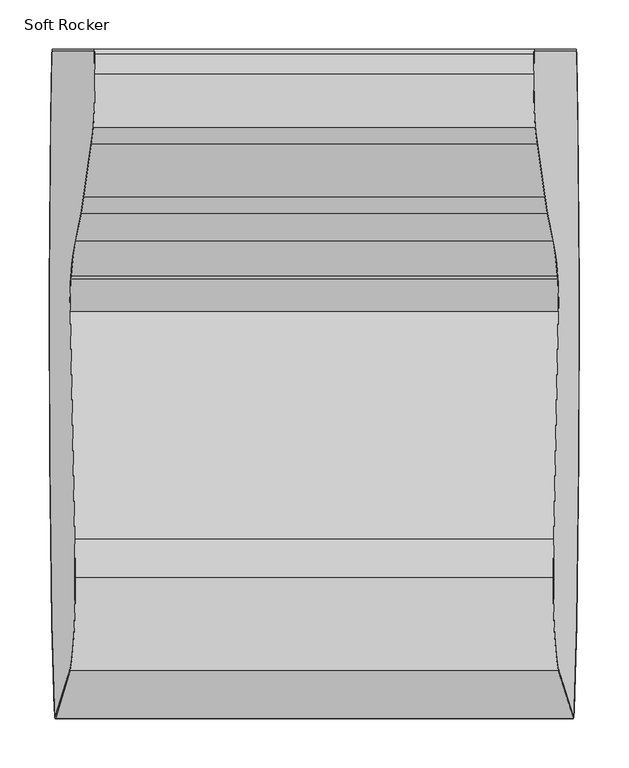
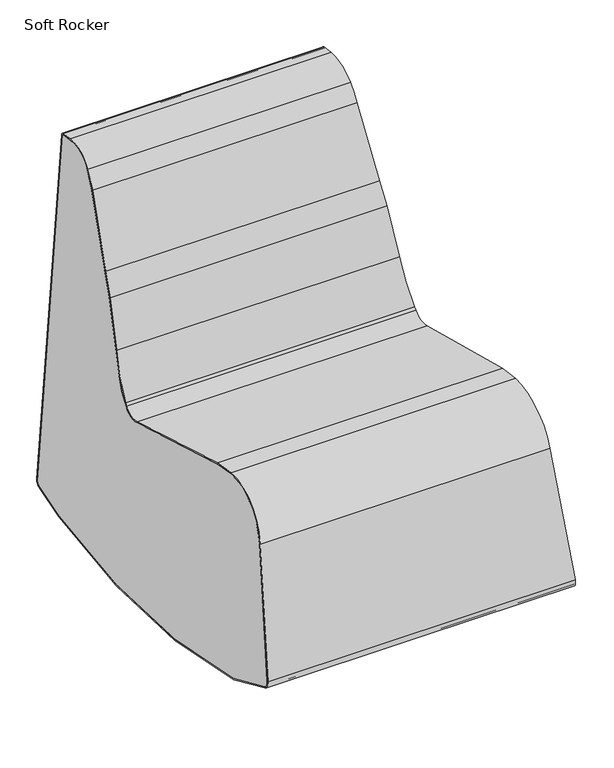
"""IFC4 building model written with IfcOpenShell, lengths in millimetres: furniture geometry, SmithSystem_AM_Seating_Education_Flowform_SoftRocker : Soft Rocker."""

from ifc_helpers import new_model, si_unit, frame, origin, place, context, project, spatial, polyline, ellipse_curve, source, transform, mapped, element, save
from ifc_brep_helpers import plane_surface, cylinder_surface, revolved_surface, advanced_brep


def soft_rocker_5f7cf07a(model_context):
    return source(origin(), model_context, "Body", "AdvancedBrep", [
        advanced_brep(
        [(-222.6757263, 653.9841106, 660.4501163), (-222.8599971, 673.8882212, 657.8149204), (-223.2436264, 678.6959108, 652.3287665), (-265.5690081, 678.6959108, 47.0476077), (-266.3341853, 670.2994023, 36.1050648), (-267.4525125, 610.6133717, 20.1122411), (-266.1935409, 95.5831676, 38.1163728), (-263.6021214, 8.3041513, 75.175399), (-262.4925661, 0.0499612, 91.0427791), (-247.5782078, 48.8208887, 304.3280392), (-242.6495993, 143.1805098, 374.810424), (-243.0614719, 182.2727038, 368.9203721), (-247.5534039, 413.130096, 304.6827508), (-246.9645762, 445.3268147, 313.1033805), (-246.6901672, 448.8482222, 317.0276111), (-241.71517, 484.2856691, 388.1733858), (-236.378299, 512.4727682, 464.4941967), (-233.8444197, 529.0775484, 500.7303599), (-226.0522483, 582.3835004, 612.1636014), (-224.1931263, 599.4360546, 638.7502849), (-223.0008592, 673.6215227, 655.8004984), (-222.8281803, 654.9695228, 658.2699217), (-223.6756202, 608.6799651, 646.1509677), (-226.1151604, 584.2054748, 611.2639163), (-236.4313746, 514.3597351, 463.7351806), (-244.3247028, 471.7620654, 350.8553284), (-247.0617004, 446.8100086, 311.7144385), (-247.6888693, 412.5168228, 302.7455054), (-243.1996181, 181.7972063, 366.9447896), (-242.7914096, 143.052787, 372.782442), (-247.6098816, 50.8017608, 303.8750826), (-262.5242399, 2.0308333, 90.5898225), (-263.4705193, 9.0703837, 77.0573958), (-266.0589368, 96.2545489, 40.0413021), (-267.3138486, 610.1629272, 22.0952261), (-266.1969357, 669.773482, 38.0678261), (-265.5690081, 676.6639108, 47.0476077), (-223.2436264, 676.6639108, 652.3287665), (222.8599971, 673.8882212, 657.8149204), (222.6757263, 653.9841106, 660.4501163), (224.1931263, 599.4360546, 638.7502849), (226.0522483, 582.3835004, 612.1636014), (233.8444197, 529.0775484, 500.7303599), (236.378299, 512.4727682, 464.4941967), (241.71517, 484.2856691, 388.1733858), (246.6901672, 448.8482222, 317.0276111), (246.9645762, 445.3268147, 313.1033805), (247.5534039, 413.130096, 304.6827508), (243.0614719, 182.2727038, 368.9203721), (242.6495993, 143.1805098, 374.810424), (247.5782078, 48.8208887, 304.3280392), (262.4925661, 0.0499612, 91.0427791), (263.6021214, 8.3041513, 75.175399), (266.1935409, 95.5831676, 38.1163728), (267.4525125, 610.6133717, 20.1122411), (266.3341853, 670.2994023, 36.1050648), (265.5690081, 678.6959108, 47.0476077), (223.2436264, 678.6959108, 652.3287665), (222.8281803, 654.9695228, 658.2699217), (223.0008592, 673.6215227, 655.8004984), (223.2436264, 676.6639108, 652.3287665), (265.5690081, 676.6639108, 47.0476077), (266.1969357, 669.773482, 38.0678261), (267.3138486, 610.1629272, 22.0952261), (266.0589368, 96.2545489, 40.0413021), (263.4705193, 9.0703837, 77.0573958), (262.5242399, 2.0308333, 90.5898225), (247.6098816, 50.8017608, 303.8750826), (242.7914096, 143.052787, 372.782442), (243.1996181, 181.7972063, 366.9447896), (247.6888693, 412.5168228, 302.7455054), (247.0617004, 446.8100086, 311.7144385), (244.3247028, 471.7620654, 350.8553284), (236.4313746, 514.3597351, 463.7351806), (226.1151604, 584.2054748, 611.2639163), (223.6756202, 608.6799651, 646.1509677)],
        [
            (0, 1),
            (1, 2, ellipse_curve(frame((-223.2436264, 673.1618843, 652.3287665), z_axis=(-0.9975640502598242, 0.0, 0.0697564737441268), x_axis=(0.06975647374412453, 0.0, 0.9975640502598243)), 5.54754, 5.5340265)),
            (2, 3),
            (3, 4, ellipse_curve(frame((-265.5690081, 667.3673568, 47.0476077), z_axis=(-0.9975640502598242, 0.0, 0.0697564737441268), x_axis=(0.06975647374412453, 0.0, 0.9975640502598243)), 11.3562172, 11.328554)),
            (4, 5),
            (5, 6, ellipse_curve(frame((-186.2612277, 393.3722829, 1181.2017068), z_axis=(-0.9975640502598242, 0.0, 0.0697564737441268), x_axis=(0.06975647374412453, 0.0, 0.9975640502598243)), 1184.1221342, 1181.2376722)),
            (6, 7, ellipse_curve(frame((-469.8156904, -1192.3424193, -2873.8160296), z_axis=(0.9975640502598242, 0.0, -0.0697564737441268), x_axis=(-0.06975647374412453, 0.0, -0.9975640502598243)), 3191.813828, 3184.0387299)),
            (7, 8, ellipse_curve(frame((-262.7078082, 13.511151, 87.9646728), z_axis=(-0.9975640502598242, 0.0, 0.0697564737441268), x_axis=(0.06975647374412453, 0.0, 0.9975640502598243)), 13.8423532, 13.8086339)),
            (8, 9),
            (9, 10, ellipse_curve(frame((-248.9956109, 137.4649155, 284.0582306), z_axis=(-0.9975640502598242, 0.0, 0.0697564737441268), x_axis=(0.06975647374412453, 0.0, 0.9975640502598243)), 91.1540467, 90.932)),
            (10, 11, ellipse_curve(frame((-258.5900245, 128.8236176, 146.8517233), z_axis=(-0.9975640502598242, 0.0, 0.0697564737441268), x_axis=(0.06975647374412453, 0.0, 0.9975640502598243)), 228.9681083, 228.4103535)),
            (11, 12, ellipse_curve(frame((-474.5395547, -614.471995, -2941.3704362), z_axis=(-0.9975640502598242, 0.0, 0.0697564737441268), x_axis=(0.06975647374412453, 0.0, 0.9975640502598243)), 3413.1383626, 3404.8241291)),
            (12, 13, ellipse_curve(frame((-245.4729796, 422.5485051, 334.4342054), z_axis=(0.9975640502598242, 0.0, -0.0697564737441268), x_axis=(-0.06975647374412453, 0.0, -0.9975640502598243)), 31.2828611, 31.2066576)),
            (13, 14, ellipse_curve(frame((-245.4479022, 425.1035248, 334.7928281), z_axis=(0.9975640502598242, 0.0, -0.0697564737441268), x_axis=(-0.06975647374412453, 0.0, -0.9975640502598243)), 29.7273227, 29.6549084)),
            (14, 15, ellipse_curve(frame((-237.401844, 271.3108796, 449.8568218), z_axis=(0.9975640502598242, 0.0, -0.0697564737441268), x_axis=(-0.06975647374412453, 0.0, -0.9975640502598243)), 222.268988, 221.7275519)),
            (15, 16, ellipse_curve(frame((-252.7354271, 1028.4218891, 230.5763679), z_axis=(-0.9975640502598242, 0.0, 0.0697564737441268), x_axis=(0.06975647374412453, 0.0, 0.9975640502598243)), 567.8822699, 566.4989373)),
            (16, 17, ellipse_curve(frame((-379.2674478, 5019.5922672, -1578.9158311), z_axis=(-0.9975640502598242, 0.0, 0.0697564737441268), x_axis=(0.06975647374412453, 0.0, 0.9975640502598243)), 4960.7861484, 4948.7019227)),
            (17, 18, ellipse_curve(frame((-379.2674477, 5019.5922667, -1578.9158309), z_axis=(-0.9975640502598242, 0.0, 0.0697564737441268), x_axis=(0.06975647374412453, 0.0, 0.9975640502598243)), 4960.7861478, 4948.7019221)),
            (18, 19, ellipse_curve(frame((-230.4415201, 709.4995769, 549.3940912), z_axis=(-0.9975640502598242, 0.0, 0.0697564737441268), x_axis=(0.06975647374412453, 0.0, 0.9975640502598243)), 142.1153939, 141.7692079)),
            (19, 0, ellipse_curve(frame((-226.8420427, 646.0958971, 600.8690157), z_axis=(-0.9975640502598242, 0.0, 0.0697564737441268), x_axis=(0.06975647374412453, 0.0, 0.9975640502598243)), 60.2477711, 60.1010105)),
            (20, 21),
            (21, 22, ellipse_curve(frame((-227.2152036, 646.6634384, 595.5325662), z_axis=(0.9975640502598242, 0.0, -0.0697564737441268), x_axis=(-0.06975647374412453, 0.0, -0.9975640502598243)), 63.4393422, 63.2848072)),
            (22, 23, ellipse_curve(frame((-230.4415201, 709.4995769, 549.3940912), z_axis=(0.9975640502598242, 0.0, -0.0697564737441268), x_axis=(-0.06975647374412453, 0.0, -0.9975640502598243)), 140.0784319, 139.7372079)),
            (23, 24, ellipse_curve(frame((-379.2674478, 5019.5922668, -1578.915831), z_axis=(0.9975640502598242, 0.0, -0.0697564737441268), x_axis=(-0.06975647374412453, 0.0, -0.9975640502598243)), 4958.7491861, 4946.6699223)),
            (24, 25, ellipse_curve(frame((-171.5116382, -2116.6610939, 1392.1306642), z_axis=(-0.9975640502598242, 0.0, 0.0697564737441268), x_axis=(0.06975647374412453, 0.0, 0.9975640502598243)), 2796.8288442, 2790.0159097)),
            (25, 26, ellipse_curve(frame((-241.0329734, 354.7447594, 397.9292522), z_axis=(-0.9975640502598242, 0.0, 0.0697564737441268), x_axis=(0.06975647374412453, 0.0, 0.9975640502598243)), 126.4388999, 126.1309011)),
            (26, 27, ellipse_curve(frame((-245.4729796, 422.5485051, 334.4342054), z_axis=(-0.9975640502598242, 0.0, 0.0697564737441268), x_axis=(0.06975647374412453, 0.0, 0.9975640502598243)), 33.319823, 33.2386576)),
            (27, 28, ellipse_curve(frame((-474.5395547, -614.471995, -2941.3704362), z_axis=(0.9975640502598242, 0.0, -0.0697564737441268), x_axis=(-0.06975647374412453, 0.0, -0.9975640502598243)), 3411.1014007, 3402.7921291)),
            (28, 29),
            (29, 30, ellipse_curve(frame((-248.9956109, 137.4649155, 284.0582306), z_axis=(0.9975640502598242, 0.0, -0.0697564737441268), x_axis=(-0.06975647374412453, 0.0, -0.9975640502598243)), 89.1170847, 88.9)),
            (30, 31),
            (31, 32, ellipse_curve(frame((-262.7078082, 13.511151, 87.9646728), z_axis=(0.9975640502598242, 0.0, -0.0697564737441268), x_axis=(-0.06975647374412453, 0.0, -0.9975640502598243)), 11.8053912, 11.7766339)),
            (32, 33, ellipse_curve(frame((-469.8156904, -1192.3424193, -2873.8160296), z_axis=(-0.9975640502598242, 0.0, 0.0697564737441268), x_axis=(0.06975647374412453, 0.0, 0.9975640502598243)), 3193.8507899, 3186.0707299)),
            (33, 34, ellipse_curve(frame((-186.2612277, 393.3722829, 1181.2017068), z_axis=(0.9975640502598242, 0.0, -0.0697564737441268), x_axis=(-0.06975647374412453, 0.0, -0.9975640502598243)), 1182.0851722, 1179.2056722)),
            (34, 35),
            (35, 36, ellipse_curve(frame((-265.5690081, 667.3673568, 47.0476077), z_axis=(0.9975640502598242, 0.0, -0.0697564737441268), x_axis=(-0.06975647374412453, 0.0, -0.9975640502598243)), 9.3192553, 9.296554)),
            (36, 37),
            (37, 20, ellipse_curve(frame((-223.2436264, 673.1618843, 652.3287665), z_axis=(0.9975640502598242, 0.0, -0.0697564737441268), x_axis=(-0.06975647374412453, 0.0, -0.9975640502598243)), 3.5105781, 3.5020265)),
            (38, 39),
            (39, 40, ellipse_curve(frame((226.8420427, 646.0958971, 600.8690157), z_axis=(0.9975640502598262, 0.0, 0.0697564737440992), x_axis=(0.06975647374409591, 0.0, -0.9975640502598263)), 60.2477711, 60.1010105)),
            (40, 41, ellipse_curve(frame((230.4415201, 709.4995769, 549.3940912), z_axis=(0.9975640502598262, 0.0, 0.0697564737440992), x_axis=(0.06975647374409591, 0.0, -0.9975640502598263)), 142.1153939, 141.7692079)),
            (41, 42, ellipse_curve(frame((379.2674477, 5019.5922667, -1578.9158309), z_axis=(0.9975640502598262, 0.0, 0.0697564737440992), x_axis=(0.06975647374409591, 0.0, -0.9975640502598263)), 4960.7861478, 4948.7019221)),
            (42, 43, ellipse_curve(frame((379.2674478, 5019.5922672, -1578.9158311), z_axis=(0.9975640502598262, 0.0, 0.0697564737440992), x_axis=(0.06975647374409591, 0.0, -0.9975640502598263)), 4960.7861484, 4948.7019227)),
            (43, 44, ellipse_curve(frame((252.7354271, 1028.4218891, 230.5763679), z_axis=(0.9975640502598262, 0.0, 0.0697564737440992), x_axis=(0.06975647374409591, 0.0, -0.9975640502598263)), 567.8822699, 566.4989373)),
            (44, 45, ellipse_curve(frame((237.401844, 271.3108796, 449.8568218), z_axis=(-0.9975640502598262, 0.0, -0.0697564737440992), x_axis=(-0.06975647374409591, 0.0, 0.9975640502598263)), 222.268988, 221.7275519)),
            (45, 46, ellipse_curve(frame((245.4479022, 425.1035248, 334.7928281), z_axis=(-0.9975640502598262, 0.0, -0.0697564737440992), x_axis=(-0.06975647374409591, 0.0, 0.9975640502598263)), 29.7273227, 29.6549084)),
            (46, 47, ellipse_curve(frame((245.4729796, 422.5485051, 334.4342054), z_axis=(-0.9975640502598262, 0.0, -0.0697564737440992), x_axis=(-0.06975647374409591, 0.0, 0.9975640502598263)), 31.2828611, 31.2066576)),
            (47, 48, ellipse_curve(frame((474.5395547, -614.471995, -2941.3704362), z_axis=(0.9975640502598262, 0.0, 0.0697564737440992), x_axis=(0.06975647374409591, 0.0, -0.9975640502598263)), 3413.1383626, 3404.8241291)),
            (48, 49, ellipse_curve(frame((258.5900245, 128.8236176, 146.8517233), z_axis=(0.9975640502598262, 0.0, 0.0697564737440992), x_axis=(0.06975647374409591, 0.0, -0.9975640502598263)), 228.9681083, 228.4103535)),
            (49, 50, ellipse_curve(frame((248.9956109, 137.4649155, 284.0582306), z_axis=(0.9975640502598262, 0.0, 0.0697564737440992), x_axis=(0.06975647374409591, 0.0, -0.9975640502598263)), 91.1540467, 90.932)),
            (50, 51),
            (51, 52, ellipse_curve(frame((262.7078082, 13.511151, 87.9646728), z_axis=(0.9975640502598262, 0.0, 0.0697564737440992), x_axis=(0.06975647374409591, 0.0, -0.9975640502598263)), 13.8423532, 13.8086339)),
            (52, 53, ellipse_curve(frame((469.8156904, -1192.3424193, -2873.8160296), z_axis=(-0.9975640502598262, 0.0, -0.0697564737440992), x_axis=(-0.06975647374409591, 0.0, 0.9975640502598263)), 3191.813828, 3184.0387299)),
            (53, 54, ellipse_curve(frame((186.2612277, 393.3722829, 1181.2017068), z_axis=(0.9975640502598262, 0.0, 0.0697564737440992), x_axis=(0.06975647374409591, 0.0, -0.9975640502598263)), 1184.1221342, 1181.2376722)),
            (54, 55),
            (55, 56, ellipse_curve(frame((265.5690081, 667.3673568, 47.0476077), z_axis=(0.9975640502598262, 0.0, 0.0697564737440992), x_axis=(0.06975647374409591, 0.0, -0.9975640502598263)), 11.3562172, 11.328554)),
            (56, 57),
            (57, 38, ellipse_curve(frame((223.2436264, 673.1618843, 652.3287665), z_axis=(0.9975640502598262, 0.0, 0.0697564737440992), x_axis=(0.06975647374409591, 0.0, -0.9975640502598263)), 5.54754, 5.5340265)),
            (58, 59),
            (59, 60, ellipse_curve(frame((223.2436264, 673.1618843, 652.3287665), z_axis=(-0.9975640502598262, 0.0, -0.0697564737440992), x_axis=(-0.06975647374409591, 0.0, 0.9975640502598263)), 3.5105781, 3.5020265)),
            (60, 61),
            (61, 62, ellipse_curve(frame((265.5690081, 667.3673568, 47.0476077), z_axis=(-0.9975640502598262, 0.0, -0.0697564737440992), x_axis=(-0.06975647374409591, 0.0, 0.9975640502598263)), 9.3192553, 9.296554)),
            (62, 63),
            (63, 64, ellipse_curve(frame((186.2612277, 393.3722829, 1181.2017068), z_axis=(-0.9975640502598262, 0.0, -0.0697564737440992), x_axis=(-0.06975647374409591, 0.0, 0.9975640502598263)), 1182.0851722, 1179.2056722)),
            (64, 65, ellipse_curve(frame((469.8156904, -1192.3424193, -2873.8160296), z_axis=(0.9975640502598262, 0.0, 0.0697564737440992), x_axis=(0.06975647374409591, 0.0, -0.9975640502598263)), 3193.8507899, 3186.0707299)),
            (65, 66, ellipse_curve(frame((262.7078082, 13.511151, 87.9646728), z_axis=(-0.9975640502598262, 0.0, -0.0697564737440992), x_axis=(-0.06975647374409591, 0.0, 0.9975640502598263)), 11.8053912, 11.7766339)),
            (66, 67),
            (67, 68, ellipse_curve(frame((248.9956109, 137.4649155, 284.0582306), z_axis=(-0.9975640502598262, 0.0, -0.0697564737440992), x_axis=(-0.06975647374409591, 0.0, 0.9975640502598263)), 89.1170847, 88.9)),
            (68, 69),
            (69, 70, ellipse_curve(frame((474.5395547, -614.471995, -2941.3704362), z_axis=(-0.9975640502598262, 0.0, -0.0697564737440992), x_axis=(-0.06975647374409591, 0.0, 0.9975640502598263)), 3411.1014007, 3402.7921291)),
            (70, 71, ellipse_curve(frame((245.4729796, 422.5485051, 334.4342054), z_axis=(0.9975640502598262, 0.0, 0.0697564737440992), x_axis=(0.06975647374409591, 0.0, -0.9975640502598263)), 33.319823, 33.2386576)),
            (71, 72, ellipse_curve(frame((241.0329734, 354.7447594, 397.9292522), z_axis=(0.9975640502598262, 0.0, 0.0697564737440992), x_axis=(0.06975647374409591, 0.0, -0.9975640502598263)), 126.4388999, 126.1309011)),
            (72, 73, ellipse_curve(frame((171.5116382, -2116.6610939, 1392.1306642), z_axis=(0.9975640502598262, 0.0, 0.0697564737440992), x_axis=(0.06975647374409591, 0.0, -0.9975640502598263)), 2796.8288442, 2790.0159097)),
            (73, 74, ellipse_curve(frame((379.2674478, 5019.5922668, -1578.915831), z_axis=(-0.9975640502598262, 0.0, -0.0697564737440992), x_axis=(-0.06975647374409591, 0.0, 0.9975640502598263)), 4958.7491861, 4946.6699223)),
            (74, 75, ellipse_curve(frame((230.4415201, 709.4995769, 549.3940912), z_axis=(-0.9975640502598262, 0.0, -0.0697564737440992), x_axis=(-0.06975647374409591, 0.0, 0.9975640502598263)), 140.0784319, 139.7372079)),
            (75, 58, ellipse_curve(frame((227.2152036, 646.6634384, 595.5325662), z_axis=(-0.9975640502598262, 0.0, -0.0697564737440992), x_axis=(-0.06975647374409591, 0.0, 0.9975640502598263)), 63.4393422, 63.2848072)),
            (38, 1),
            (0, 39),
            (46, 13),
            (12, 47),
            (11, 48),
            (10, 49),
            (9, 50),
            (8, 51),
            (7, 52),
            (6, 53),
            (5, 54),
            (4, 55),
            (3, 56),
            (2, 57),
            (58, 21),
            (20, 59),
            (37, 60),
            (36, 61),
            (35, 62),
            (34, 63),
            (33, 64),
            (32, 65),
            (31, 66),
            (30, 67),
            (29, 68),
            (28, 69),
            (27, 70),
            (26, 71),
            (25, 72),
            (24, 73),
            (23, 74),
            (22, 75),
            (41, 18),
            (17, 42),
            (16, 43),
            (15, 44),
            (14, 45),
            (19, 40),
        ],
        [
            plane_surface(frame((-275.6879581, -495.3, -97.6601187), z_axis=(-0.9975640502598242, 0.0, 0.0697564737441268), x_axis=(0.0, 1.0, 0.0))),
            plane_surface(frame((221.9422731, -495.3, 670.9389851), z_axis=(0.9975640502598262, 0.0, 0.0697564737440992), x_axis=(0.0, 1.0, 0.0))),
            plane_surface(frame((293.3589418, 673.8882212, 657.8149204), z_axis=(0.0, 0.13124926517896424, 0.9913493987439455), x_axis=(-1.0, 0.0, 0.0))),
            revolved_surface(polyline([(-247.65516167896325, 453.7551627, 334.4342054), (247.65516167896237, 453.7551627, 334.4342054)]), (-303.6082854, 422.5485051, 334.4342054), (-1.0, 0.0, 0.0)),
            cylinder_surface(frame((-303.6082854, -614.471995, -2941.3704362), z_axis=(1.0, 0.0, 0.0), x_axis=(0.0, 1.0, 0.0)), 3404.8241291),
            cylinder_surface(frame((-303.6082854, 128.8236176, 146.8517233), z_axis=(1.0, 0.0, 0.0), x_axis=(0.0, 1.0, 0.0)), 228.4103535),
            cylinder_surface(frame((-303.6082854, 137.4649155, 284.0582306), z_axis=(1.0, 0.0, 0.0), x_axis=(0.0, 1.0, 0.0)), 90.932),
            plane_surface(frame((293.3589418, 48.8208887, 304.3280392), z_axis=(0.0, -0.9748386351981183, 0.22291172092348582), x_axis=(-1.0, 0.0, 0.0))),
            cylinder_surface(frame((-303.6082854, 13.511151, 87.9646728), z_axis=(1.0, 0.0, 0.0), x_axis=(0.0, 1.0, 0.0)), 13.8086339),
            revolved_surface(polyline([(-692.4653678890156, 1991.6963105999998, -2873.8160296), (692.4653678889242, 1991.6963105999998, -2873.8160296)]), (-303.6082854, -1192.3424193, -2873.8160296), (-1.0, 0.0, 0.0)),
            cylinder_surface(frame((-303.6082854, 393.3722829, 1181.2017068), z_axis=(1.0, 0.0, 0.0), x_axis=(0.0, 1.0, 0.0)), 1181.2376722),
            plane_surface(frame((293.3589418, 610.6133717, 20.1122411), z_axis=(0.0, 0.25881904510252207, -0.965925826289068), x_axis=(-1.0, 0.0, 0.0))),
            cylinder_surface(frame((-303.6082854, 667.3673568, 47.0476077), z_axis=(1.0, 0.0, 0.0), x_axis=(0.0, 1.0, 0.0)), 11.328554),
            plane_surface(frame((293.3589418, 678.6959108, 47.0476077), z_axis=(0.0, 1.0, 0.0), x_axis=(-1.0, 0.0, 0.0))),
            cylinder_surface(frame((-303.6082854, 673.1618843, 652.3287665), z_axis=(1.0, 0.0, 0.0), x_axis=(0.0, 1.0, 0.0)), 5.5340265),
            plane_surface(frame((293.3589418, 654.9695228, 658.2699217), z_axis=(0.0, -0.13124926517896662, -0.991349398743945), x_axis=(-1.0, 0.0, 0.0))),
            revolved_surface(polyline([(-223.48851194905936, 676.6639108, 652.3287665), (223.48851194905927, 676.6639108, 652.3287665)]), (0.0, 673.1618843, 652.3287665), (-1.0, 0.0, 0.0)),
            plane_surface(frame((293.3589418, 676.6639108, 652.3287665), z_axis=(0.0, -1.0, 0.0), x_axis=(-1.0, 0.0, 0.0))),
            revolved_surface(polyline([(-266.21908648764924, 676.6639108, 47.0476077), (266.219086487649, 676.6639108, 47.0476077)]), (0.0, 667.3673568, 47.0476077), (-1.0, 0.0, 0.0)),
            plane_surface(frame((293.3589418, 669.773482, 38.0678261), z_axis=(0.0, -0.25881904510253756, 0.9659258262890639), x_axis=(-1.0, 0.0, 0.0))),
            revolved_surface(polyline([(-268.71932097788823, 1572.5779551, 1181.2017068), (268.7193209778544, 1572.5779551, 1181.2017068)]), (0.0, 393.3722829, 1181.2017068), (-1.0, 0.0, 0.0)),
            cylinder_surface(frame((0.0, -1192.3424193, -2873.8160296), z_axis=(1.0, 0.0, 0.0), x_axis=(0.0, 1.0, 0.0)), 3186.0707299),
            revolved_surface(polyline([(-263.5313106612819, 25.2877849, 87.9646728), (263.53131066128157, 25.2877849, 87.9646728)]), (0.0, 13.511151, 87.9646728), (-1.0, 0.0, 0.0)),
            plane_surface(frame((293.3589418, 2.0308333, 90.5898225), z_axis=(0.0, 0.9748386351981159, -0.22291172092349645), x_axis=(-1.0, 0.0, 0.0))),
            revolved_surface(polyline([(-255.21210447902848, 226.3649155, 284.0582306), (255.21210447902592, 226.3649155, 284.0582306)]), (0.0, 137.4649155, 284.0582306), (-1.0, 0.0, 0.0)),
            plane_surface(frame((293.3589418, 143.052787, 372.782442), z_axis=(0.0, -0.14898913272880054, -0.9888388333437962), x_axis=(-1.0, 0.0, 0.0))),
            revolved_surface(polyline([(-712.4859599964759, 2788.3201341, -2941.3704362), (712.4859599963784, 2788.3201341, -2941.3704362)]), (0.0, -614.471995, -2941.3704362), (-1.0, 0.0, 0.0)),
            cylinder_surface(frame((0.0, 422.5485051, 334.4342054), z_axis=(1.0, 0.0, 0.0), x_axis=(0.0, 1.0, 0.0)), 33.2386576),
            cylinder_surface(frame((0.0, 354.7447594, 397.9292522), z_axis=(1.0, 0.0, 0.0), x_axis=(0.0, 1.0, 0.0)), 126.1309011),
            cylinder_surface(frame((0.0, -2116.6610939, 1392.1306642), z_axis=(1.0, 0.0, 0.0), x_axis=(0.0, 1.0, 0.0)), 2790.0159097),
            revolved_surface(polyline([(-725.1723052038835, 9966.2621891, -1578.915831), (725.1723052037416, 9966.2621891, -1578.915831)]), (0.0, 5019.5922668, -1578.915831), (-1.0, 0.0, 0.0)),
            revolved_surface(polyline([(-240.21289755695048, 849.2367847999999, 549.3940912), (240.21289755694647, 849.2367847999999, 549.3940912)]), (0.0, 709.4995769, 549.3940912), (-1.0, 0.0, 0.0)),
            revolved_surface(polyline([(-231.64050840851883, 709.9482456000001, 595.5325662), (231.640508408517, 709.9482456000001, 595.5325662)]), (0.0, 646.6634384, 595.5325662), (-1.0, 0.0, 0.0)),
            cylinder_surface(frame((-303.6082854, 5019.5922667, -1578.9158309), z_axis=(1.0, 0.0, 0.0), x_axis=(0.0, -1.0, 0.0)), 4948.7019221),
            cylinder_surface(frame((-303.6082854, 5019.5922672, -1578.9158311), z_axis=(1.0, 0.0, 0.0), x_axis=(0.0, -1.0, 0.0)), 4948.7019227),
            cylinder_surface(frame((-303.6082854, 1028.4218891, 230.5763679), z_axis=(1.0, 0.0, 0.0), x_axis=(0.0, -1.0, 0.0)), 566.4989373),
            revolved_surface(polyline([(-252.90654482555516, 49.58332770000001, 449.8568218), (252.90654482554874, 49.58332770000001, 449.8568218)]), (-303.6082854, 271.3108796, 449.8568218), (-1.0, 0.0, 0.0)),
            revolved_surface(polyline([(-247.52157540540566, 395.4486164, 334.7928281), (247.52157540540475, 395.4486164, 334.7928281)]), (-303.6082854, 425.1035248, 334.7928281), (-1.0, 0.0, 0.0)),
            cylinder_surface(frame((-303.6082854, 646.0958971, 600.8690157), z_axis=(1.0, 0.0, 0.0), x_axis=(0.0, -1.0, 0.0)), 60.1010105),
            cylinder_surface(frame((-303.6082854, 709.4995769, 549.3940912), z_axis=(1.0, 0.0, 0.0), x_axis=(0.0, -1.0, 0.0)), 141.7692079),
        ],
        [
            (0, [[1, 2, 3, 4, 5, 6, 7, 8, 9, 10, 11, 12, 13, 14, 15, 16, 17, 18, 19, 20], [21, 22, 23, 24, 25, 26, 27, 28, 29, 30, 31, 32, 33, 34, 35, 36, 37, 38]]),
            (1, [[39, 40, 41, 42, 43, 44, 45, 46, 47, 48, 49, 50, 51, 52, 53, 54, 55, 56, 57, 58], [59, 60, 61, 62, 63, 64, 65, 66, 67, 68, 69, 70, 71, 72, 73, 74, 75, 76]]),
            (2, [[77, -1, 78, -39]]),
            (3, [[79, -13, 80, -47]]),
            (4, [[-80, -12, 81, -48]]),
            (5, [[-81, -11, 82, -49]]),
            (6, [[-82, -10, 83, -50]]),
            (7, [[-83, -9, 84, -51]]),
            (8, [[-84, -8, 85, -52]]),
            (9, [[-85, -7, 86, -53]]),
            (10, [[-86, -6, 87, -54]]),
            (11, [[-87, -5, 88, -55]]),
            (12, [[-88, -4, 89, -56]]),
            (13, [[-89, -3, 90, -57]]),
            (14, [[-77, -58, -90, -2]]),
            (15, [[91, -21, 92, -59]]),
            (16, [[-92, -38, 93, -60]]),
            (17, [[-93, -37, 94, -61]]),
            (18, [[-94, -36, 95, -62]]),
            (19, [[-95, -35, 96, -63]]),
            (20, [[-96, -34, 97, -64]]),
            (21, [[-97, -33, 98, -65]]),
            (22, [[-98, -32, 99, -66]]),
            (23, [[-99, -31, 100, -67]]),
            (24, [[-100, -30, 101, -68]]),
            (25, [[-101, -29, 102, -69]]),
            (26, [[-102, -28, 103, -70]]),
            (27, [[-103, -27, 104, -71]]),
            (28, [[-104, -26, 105, -72]]),
            (29, [[-105, -25, 106, -73]]),
            (30, [[-106, -24, 107, -74]]),
            (31, [[-107, -23, 108, -75]]),
            (32, [[-91, -76, -108, -22]]),
            (33, [[109, -18, 110, -42]]),
            (34, [[-110, -17, 111, -43]]),
            (35, [[-111, -16, 112, -44]]),
            (36, [[-112, -15, 113, -45]]),
            (37, [[-79, -46, -113, -14]]),
            (38, [[-78, -20, 114, -40]]),
            (39, [[-109, -41, -114, -19]]),
        ],
    ),
        advanced_brep(
        [(244.3247028, 471.7620654, 350.8553284), (-244.3247028, 471.7620654, 350.8553284), (-247.0617004, 446.8100086, 311.7144385), (247.0617004, 446.8100086, 311.7144385), (-247.6888693, 412.5168228, 302.7455054), (247.6888693, 412.5168228, 302.7455054), (-243.1996181, 181.7972063, 366.9447896), (243.1996181, 181.7972063, 366.9447896), (-242.7914096, 143.052787, 372.782442), (242.7914096, 143.052787, 372.782442), (247.6098816, 50.8017608, 303.8750826), (-247.6098816, 50.8017608, 303.8750826), (-262.5242399, 2.0308333, 90.5898225), (262.5242399, 2.0308333, 90.5898225), (-263.4705193, 9.0703837, 77.0573958), (263.4705193, 9.0703837, 77.0573958), (-266.0589368, 96.2545489, 40.0413021), (266.0589368, 96.2545489, 40.0413021), (-267.3138486, 610.1629272, 22.0952261), (267.3138486, 610.1629272, 22.0952261), (-266.1969357, 669.773482, 38.0678261), (266.1969357, 669.773482, 38.0678261), (-265.5690081, 676.6639108, 47.0476077), (265.5690081, 676.6639108, 47.0476077), (-223.2436264, 676.6639108, 652.3287665), (223.2436264, 676.6639108, 652.3287665), (-223.0008592, 673.6215227, 655.8004984), (223.0008592, 673.6215227, 655.8004984), (-222.8281803, 654.9695228, 658.2699217), (222.8281803, 654.9695228, 658.2699217), (-236.4313746, 514.3597351, 463.7351806), (-226.1151604, 584.2054748, 611.2639163), (-223.6756202, 608.6799651, 646.1509677), (223.6756202, 608.6799651, 646.1509677), (226.1151604, 584.2054748, 611.2639163), (236.4313746, 514.3597351, 463.7351806)],
        [
            (0, 1),
            (1, 2, ellipse_curve(frame((-241.0329734, 354.7447594, 397.9292522), z_axis=(-0.9975640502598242, 0.0, 0.0697564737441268), x_axis=(-0.06975647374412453, 0.0, -0.9975640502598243)), 126.4388999, 126.1309011)),
            (2, 3),
            (3, 0, ellipse_curve(frame((241.0329734, 354.7447594, 397.9292522), z_axis=(0.9975640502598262, 0.0, 0.0697564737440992), x_axis=(-0.06975647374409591, 0.0, 0.9975640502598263)), 126.4388999, 126.1309011)),
            (2, 4, ellipse_curve(frame((-245.4729796, 422.5485051, 334.4342054), z_axis=(-0.9975640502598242, 0.0, 0.0697564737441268), x_axis=(-0.06975647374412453, 0.0, -0.9975640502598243)), 33.319823, 33.2386576)),
            (4, 5),
            (5, 3, ellipse_curve(frame((245.4729796, 422.5485051, 334.4342054), z_axis=(0.9975640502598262, 0.0, 0.0697564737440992), x_axis=(-0.06975647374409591, 0.0, 0.9975640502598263)), 33.319823, 33.2386576)),
            (4, 6, ellipse_curve(frame((-474.5395547, -614.471995, -2941.3704362), z_axis=(0.9975640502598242, 0.0, -0.0697564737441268), x_axis=(0.06975647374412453, 0.0, 0.9975640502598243)), 3411.1014007, 3402.7921291)),
            (6, 7),
            (7, 5, ellipse_curve(frame((474.5395547, -614.471995, -2941.3704362), z_axis=(-0.9975640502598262, 0.0, -0.0697564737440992), x_axis=(0.06975647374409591, 0.0, -0.9975640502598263)), 3411.1014007, 3402.7921291)),
            (6, 8, ellipse_curve(frame((-258.5900245, 128.8236176, 146.8517233), z_axis=(0.9975640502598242, 0.0, -0.0697564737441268), x_axis=(0.06975647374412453, 0.0, 0.9975640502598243)), 226.9311463, 226.3783535)),
            (8, 9),
            (9, 7, ellipse_curve(frame((258.5900245, 128.8236176, 146.8517233), z_axis=(-0.9975640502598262, 0.0, -0.0697564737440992), x_axis=(0.06975647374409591, 0.0, -0.9975640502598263)), 226.9311463, 226.3783535)),
            (10, 11),
            (11, 12),
            (12, 13),
            (13, 10),
            (12, 14, ellipse_curve(frame((-262.7078082, 13.511151, 87.9646728), z_axis=(0.9975640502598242, 0.0, -0.0697564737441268), x_axis=(0.06975647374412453, 0.0, 0.9975640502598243)), 11.8053912, 11.7766339)),
            (14, 15),
            (15, 13, ellipse_curve(frame((262.7078082, 13.511151, 87.9646728), z_axis=(-0.9975640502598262, 0.0, -0.0697564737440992), x_axis=(0.06975647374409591, 0.0, -0.9975640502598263)), 11.8053912, 11.7766339)),
            (14, 16, ellipse_curve(frame((-469.8156904, -1192.3424193, -2873.8160296), z_axis=(-0.9975640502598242, 0.0, 0.0697564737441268), x_axis=(-0.06975647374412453, 0.0, -0.9975640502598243)), 3193.8507899, 3186.0707299)),
            (16, 17),
            (17, 15, ellipse_curve(frame((469.8156904, -1192.3424193, -2873.8160296), z_axis=(0.9975640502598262, 0.0, 0.0697564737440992), x_axis=(-0.06975647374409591, 0.0, 0.9975640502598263)), 3193.8507899, 3186.0707299)),
            (16, 18, ellipse_curve(frame((-186.2612277, 393.3722829, 1181.2017068), z_axis=(0.9975640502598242, 0.0, -0.0697564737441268), x_axis=(0.06975647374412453, 0.0, 0.9975640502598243)), 1182.0851722, 1179.2056722)),
            (18, 19),
            (19, 17, ellipse_curve(frame((186.2612277, 393.3722829, 1181.2017068), z_axis=(-0.9975640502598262, 0.0, -0.0697564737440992), x_axis=(0.06975647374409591, 0.0, -0.9975640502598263)), 1182.0851722, 1179.2056722)),
            (18, 20),
            (20, 21),
            (21, 19),
            (20, 22, ellipse_curve(frame((-265.5690081, 667.3673568, 47.0476077), z_axis=(0.9975640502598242, 0.0, -0.0697564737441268), x_axis=(0.06975647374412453, 0.0, 0.9975640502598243)), 9.3192553, 9.296554)),
            (22, 23),
            (23, 21, ellipse_curve(frame((265.5690081, 667.3673568, 47.0476077), z_axis=(-0.9975640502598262, 0.0, -0.0697564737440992), x_axis=(0.06975647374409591, 0.0, -0.9975640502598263)), 9.3192553, 9.296554)),
            (22, 24),
            (24, 25),
            (25, 23),
            (24, 26, ellipse_curve(frame((-223.2436264, 673.1618843, 652.3287665), z_axis=(0.9975640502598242, 0.0, -0.0697564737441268), x_axis=(0.06975647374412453, 0.0, 0.9975640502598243)), 3.5105781, 3.5020265)),
            (26, 27),
            (27, 25, ellipse_curve(frame((223.2436264, 673.1618843, 652.3287665), z_axis=(-0.9975640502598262, 0.0, -0.0697564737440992), x_axis=(0.06975647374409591, 0.0, -0.9975640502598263)), 3.5105781, 3.5020265)),
            (26, 28),
            (28, 29),
            (29, 27),
            (1, 30, ellipse_curve(frame((-171.5116382, -2116.6610939, 1392.1306642), z_axis=(0.9975640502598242, 0.0, -0.0697564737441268), x_axis=(-0.06975647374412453, 0.0, -0.9975640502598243)), 2796.8288442, 2790.0159097)),
            (30, 31, ellipse_curve(frame((-379.2674478, 5019.5922668, -1578.915831), z_axis=(-0.9975640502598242, 0.0, 0.0697564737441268), x_axis=(0.06975647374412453, 0.0, 0.9975640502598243)), 4958.7491861, 4946.6699223)),
            (31, 32, ellipse_curve(frame((-230.4415201, 709.4995769, 549.3940912), z_axis=(-0.9975640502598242, 0.0, 0.0697564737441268), x_axis=(0.06975647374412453, 0.0, 0.9975640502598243)), 140.0784319, 139.7372079)),
            (32, 28, ellipse_curve(frame((-227.2152036, 646.6634384, 595.5325662), z_axis=(-0.9975640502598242, 0.0, 0.0697564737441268), x_axis=(0.06975647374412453, 0.0, 0.9975640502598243)), 63.4393422, 63.2848072)),
            (11, 8, ellipse_curve(frame((-248.9956109, 137.4649155, 284.0582306), z_axis=(-0.9975640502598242, 0.0, 0.0697564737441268), x_axis=(0.06975647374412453, 0.0, 0.9975640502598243)), 89.1170847, 88.9)),
            (9, 10, ellipse_curve(frame((248.9956109, 137.4649155, 284.0582306), z_axis=(0.9975640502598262, 0.0, 0.0697564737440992), x_axis=(0.06975647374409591, 0.0, -0.9975640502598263)), 89.1170847, 88.9)),
            (29, 33, ellipse_curve(frame((227.2152036, 646.6634384, 595.5325662), z_axis=(0.9975640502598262, 0.0, 0.0697564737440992), x_axis=(0.06975647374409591, 0.0, -0.9975640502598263)), 63.4393422, 63.2848072)),
            (33, 34, ellipse_curve(frame((230.4415201, 709.4995769, 549.3940912), z_axis=(0.9975640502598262, 0.0, 0.0697564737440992), x_axis=(0.06975647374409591, 0.0, -0.9975640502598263)), 140.0784319, 139.7372079)),
            (34, 35, ellipse_curve(frame((379.2674478, 5019.5922668, -1578.915831), z_axis=(0.9975640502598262, 0.0, 0.0697564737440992), x_axis=(0.06975647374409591, 0.0, -0.9975640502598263)), 4958.7491861, 4946.6699223)),
            (35, 0, ellipse_curve(frame((171.5116382, -2116.6610939, 1392.1306642), z_axis=(-0.9975640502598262, 0.0, -0.0697564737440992), x_axis=(-0.06975647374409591, 0.0, 0.9975640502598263)), 2796.8288442, 2790.0159097)),
            (32, 33),
            (31, 34),
            (30, 35),
        ],
        [
            revolved_surface(polyline([(-249.85290520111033, 228.6138583, 397.9292522), (249.85290520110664, 228.6138583, 397.9292522)]), (-309.5346571, 354.7447594, 397.9292522), (-1.0, 0.0, 0.0)),
            revolved_surface(polyline([(-247.79725295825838, 389.3098475, 334.4342054), (247.79725295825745, 389.3098475, 334.4342054)]), (-309.5346571, 422.5485051, 334.4342054), (-1.0, 0.0, 0.0)),
            cylinder_surface(frame((-309.5346571, -614.471995, -2941.3704362), z_axis=(1.0, 0.0, 0.0), x_axis=(0.0, -1.0, 0.0)), 3402.7921291),
            cylinder_surface(frame((-309.5346571, 128.8236176, 146.8517233), z_axis=(1.0, 0.0, 0.0), x_axis=(0.0, -1.0, 0.0)), 226.3783535),
            plane_surface(frame((310.0086338, 50.8017608, 303.8750826), z_axis=(0.0, -0.9748386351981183, 0.2229117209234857), x_axis=(-1.0, 0.0, 0.0))),
            cylinder_surface(frame((-309.5346571, 13.511151, 87.9646728), z_axis=(1.0, 0.0, 0.0), x_axis=(0.0, -1.0, 0.0)), 11.7766339),
            revolved_surface(polyline([(-692.6074591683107, -4378.4131492, -2873.8160296), (692.6074591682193, -4378.4131492, -2873.8160296)]), (-309.5346571, -1192.3424193, -2873.8160296), (-1.0, 0.0, 0.0)),
            cylinder_surface(frame((-309.5346571, 393.3722829, 1181.2017068), z_axis=(1.0, 0.0, 0.0), x_axis=(0.0, -1.0, 0.0)), 1179.2056722),
            plane_surface(frame((310.0086338, 610.1629272, 22.0952261), z_axis=(0.0, 0.25881904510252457, -0.9659258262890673), x_axis=(-1.0, 0.0, 0.0))),
            cylinder_surface(frame((-309.5346571, 667.3673568, 47.0476077), z_axis=(1.0, 0.0, 0.0), x_axis=(0.0, -1.0, 0.0)), 9.296554),
            plane_surface(frame((310.0086338, 676.6639108, 47.0476077), z_axis=(0.0, 1.0, 0.0), x_axis=(-1.0, 0.0, 0.0))),
            cylinder_surface(frame((-309.5346571, 673.1618843, 652.3287665), z_axis=(1.0, 0.0, 0.0), x_axis=(0.0, -1.0, 0.0)), 3.5020265),
            plane_surface(frame((310.0086338, 673.6215227, 655.8004984), z_axis=(0.0, 0.1312492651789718, 0.9913493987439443), x_axis=(-1.0, 0.0, 0.0))),
            plane_surface(frame((-275.6879581, -495.3, -97.6601187), z_axis=(-0.9975640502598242, 0.0, 0.0697564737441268), x_axis=(0.0, 1.0, 0.0))),
            plane_surface(frame((221.9422731, -495.3, 670.9389851), z_axis=(0.9975640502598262, 0.0, 0.0697564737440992), x_axis=(0.0, 1.0, 0.0))),
            cylinder_surface(frame((-309.5346571, 646.6634384, 595.5325662), z_axis=(1.0, 0.0, 0.0), x_axis=(0.0, -1.0, 0.0)), 63.2848072),
            cylinder_surface(frame((-309.5346571, 709.4995769, 549.3940912), z_axis=(1.0, 0.0, 0.0), x_axis=(0.0, -1.0, 0.0)), 139.7372079),
            cylinder_surface(frame((-309.5346571, 5019.5922668, -1578.915831), z_axis=(1.0, 0.0, 0.0), x_axis=(0.0, -1.0, 0.0)), 4946.6699223),
            revolved_surface(polyline([(-366.6085560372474, -4906.6770036, 1392.1306642), (366.6085560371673, -4906.6770036, 1392.1306642)]), (-309.5346571, -2116.6610939, 1392.1306642), (-1.0, 0.0, 0.0)),
            cylinder_surface(frame((-309.5346571, 137.4649155, 284.0582306), z_axis=(1.0, 0.0, 0.0), x_axis=(0.0, -1.0, 0.0)), 88.9),
        ],
        [
            (0, [[1, 2, 3, 4]]),
            (1, [[-3, 5, 6, 7]]),
            (2, [[-6, 8, 9, 10]]),
            (3, [[-9, 11, 12, 13]]),
            (4, [[14, 15, 16, 17]]),
            (5, [[-16, 18, 19, 20]]),
            (6, [[-19, 21, 22, 23]]),
            (7, [[-22, 24, 25, 26]]),
            (8, [[-25, 27, 28, 29]]),
            (9, [[-28, 30, 31, 32]]),
            (10, [[-31, 33, 34, 35]]),
            (11, [[-34, 36, 37, 38]]),
            (12, [[-37, 39, 40, 41]]),
            (13, [[-2, 42, 43, 44, 45, -39, -36, -33, -30, -27, -24, -21, -18, -15, 46, -11, -8, -5]]),
            (14, [[-4, -7, -10, -13, 47, -17, -20, -23, -26, -29, -32, -35, -38, -41, 48, 49, 50, 51]]),
            (15, [[-40, -45, 52, -48]]),
            (16, [[-52, -44, 53, -49]]),
            (17, [[-53, -43, 54, -50]]),
            (18, [[-1, -51, -54, -42]]),
            (19, [[-14, -47, -12, -46]]),
        ],
    ),
    ])


if __name__ == "__main__":
    model = new_model("IFC4")
    model_context = context("Model", 3, world=origin())
    ifc_project = project(units=[si_unit("LENGTHUNIT", "METRE", prefix="MILLI")], contexts=[model_context])
    site = spatial("IfcSite", under=ifc_project)
    building = spatial("IfcBuilding", under=site)
    placement = place(None, origin())
    soft_rocker_shape = soft_rocker_5f7cf07a(model_context)
    element("IfcFurniture", 1, ObjectType="SmithSystem_AM_Seating_Education_Flowform_SoftRocker : Soft Rocker", at=placement, inside=building, context=model_context, shape_type="MappedRepresentation", body=[
        mapped(soft_rocker_shape, transform((0.0, 0.0, 0.0), x_axis=(1.0, 0.0, 0.0), y_axis=(0.0, 1.0, 0.0), z_axis=(0.0, 0.0, 1.0))),
    ])
    save(model, "model.ifc")
